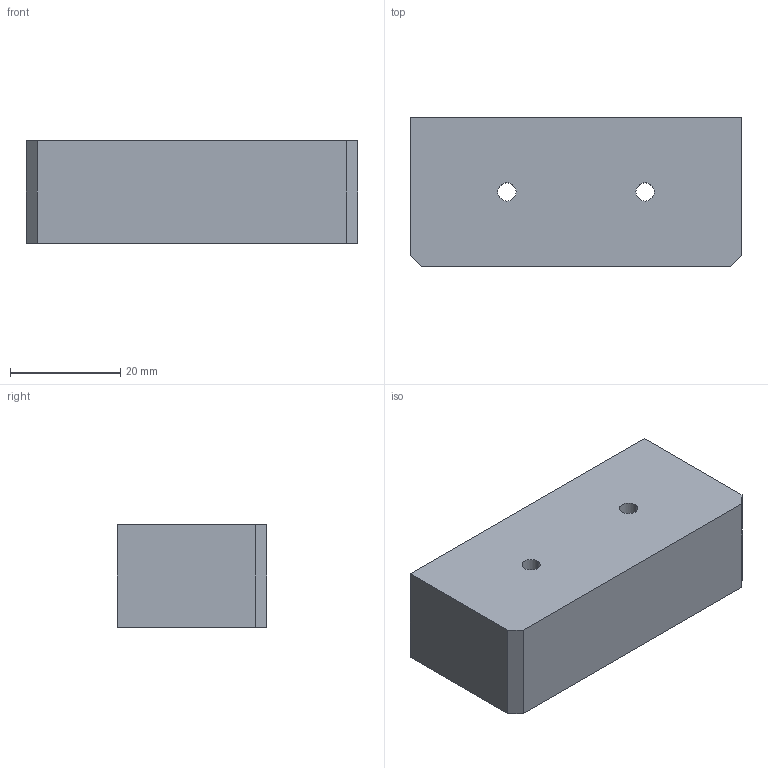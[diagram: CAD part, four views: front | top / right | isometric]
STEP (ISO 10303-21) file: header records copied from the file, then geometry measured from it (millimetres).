
FILE_DESCRIPTION (( 'STEP AP203' ), '1' );
FILE_NAME ('YWSD-2026-03-01-05-02=004 滅鳥輸.STEP', '2026-07-24T07:36:40', ( 'Windows 蚚誧' ), ( '' ), 'SwSTEP 2.0', 'SolidWorks 2024', '' );
FILE_SCHEMA (( 'CONFIG_CONTROL_DESIGN' ));
Length unit declared in the file: millimetre
Products named in the file (1): YWSD-2026-03-01-05-02=004 防尘块
Bounding box: 60 x 27 x 18.5 mm (x, y, z)
Volume: 19398.9 mm3; surface area: 6969 mm2
Topology: 1 solids, 1 shells, 18 faces, 48 edges, 32 vertices
Faces by surface type: plane 12, cylinder 6
Entity records: 649 total; most frequent: CARTESIAN_POINT 99, DIRECTION 98, ORIENTED_EDGE 96, EDGE_CURVE 48, VECTOR 36, LINE 36, VERTEX_POINT 32, AXIS2_PLACEMENT_3D 31
